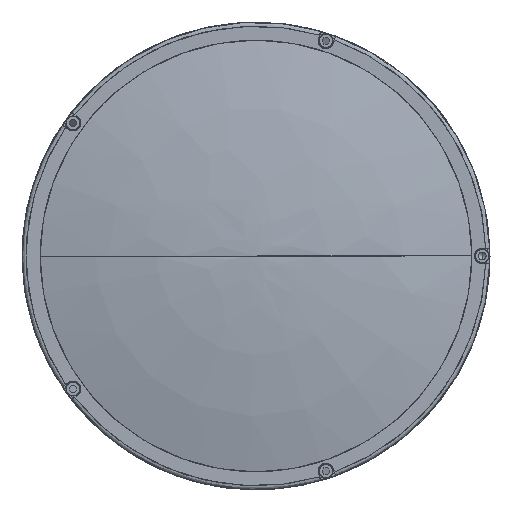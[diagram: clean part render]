
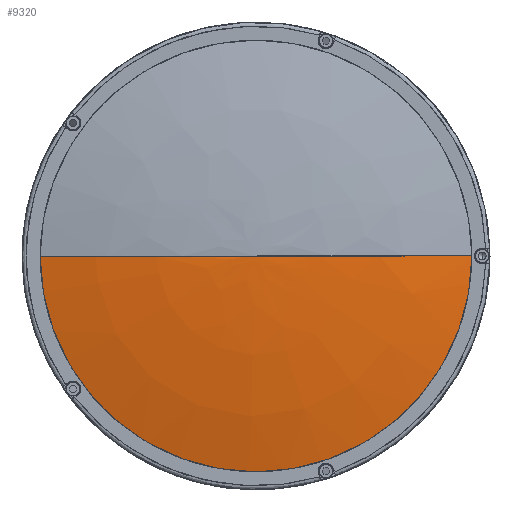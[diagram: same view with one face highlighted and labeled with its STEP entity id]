
A CAD part, left-side view. The second image highlights one B-rep face of the part: STEP entity #9320.
In plain terms, the highlighted face is a revolution surface.
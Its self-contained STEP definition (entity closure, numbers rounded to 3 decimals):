
#9320 = ADVANCED_FACE('',(#9321),#9339,.T.);
#9321 = FACE_BOUND('',#9322,.T.);
#9322 = EDGE_LOOP('',(#9323,#9353,#9372,#9391));
#9323 = ORIENTED_EDGE('',*,*,#9324,.F.);
#9324 = EDGE_CURVE('',#9325,#9327,#9329,.T.);
#9325 = VERTEX_POINT('',#9326);
#9326 = CARTESIAN_POINT('',(-362.63,0.,
    0.));
#9327 = VERTEX_POINT('',#9328);
#9328 = CARTESIAN_POINT('',(-353.104,85.,
    0.));
#9329 = SURFACE_CURVE('',#9330,(#9338),.PCURVE_S1.);
#9330 = ( BOUNDED_CURVE() B_SPLINE_CURVE(6,(#9331,#9332,#9333,#9334,
#9335,#9336,#9337),.UNSPECIFIED.,.F.,.F.) B_SPLINE_CURVE_WITH_KNOTS((7,7
),(0.,1.),.PIECEWISE_BEZIER_KNOTS.) CURVE() 
GEOMETRIC_REPRESENTATION_ITEM() RATIONAL_B_SPLINE_CURVE((1.001,
    1.,1.,1.,1.,
1.,1.001)) REPRESENTATION_ITEM('') );
#9331 = CARTESIAN_POINT('',(-362.63,0.,
    0.));
#9332 = CARTESIAN_POINT('',(-362.63,14.291,
    0.));
#9333 = CARTESIAN_POINT('',(-361.992,28.575,
    0.));
#9334 = CARTESIAN_POINT('',(-360.717,42.819,
    0.));
#9335 = CARTESIAN_POINT('',(-358.807,56.993,
    0.));
#9336 = CARTESIAN_POINT('',(-356.268,71.064,
    0.));
#9337 = CARTESIAN_POINT('',(-353.104,85.,
    0.));
#9338 = PCURVE('',#9339,#9348);
#9339 = SURFACE_OF_REVOLUTION('',#9340,#9345);
#9340 = CIRCLE('',#9341,384.);
#9341 = AXIS2_PLACEMENT_3D('',#9342,#9343,#9344);
#9342 = CARTESIAN_POINT('',(21.37,0.,0.));
#9343 = DIRECTION('',(-0.,0.,1.));
#9344 = DIRECTION('',(1.,0.,0.));
#9345 = AXIS1_PLACEMENT('',#9346,#9347);
#9346 = CARTESIAN_POINT('',(21.37,0.,0.));
#9347 = DIRECTION('',(1.,0.,0.));
#9348 = DEFINITIONAL_REPRESENTATION('',(#9349),#9352);
#9349 = B_SPLINE_CURVE_WITH_KNOTS('',1,(#9350,#9351),.UNSPECIFIED.,.F.,
  .F.,(2,2),(0.,1.),.PIECEWISE_BEZIER_KNOTS.);
#9350 = CARTESIAN_POINT('',(6.283,3.142));
#9351 = CARTESIAN_POINT('',(6.283,2.918));
#9352 = ( GEOMETRIC_REPRESENTATION_CONTEXT(2) 
PARAMETRIC_REPRESENTATION_CONTEXT() REPRESENTATION_CONTEXT('',''
  ) );
#9353 = ORIENTED_EDGE('',*,*,#9354,.F.);
#9354 = EDGE_CURVE('',#9355,#9325,#9357,.T.);
#9355 = VERTEX_POINT('',#9356);
#9356 = CARTESIAN_POINT('',(-362.63,0.,
    0.));
#9357 = SURFACE_CURVE('',#9358,(#9366),.PCURVE_S1.);
#9358 = ( BOUNDED_CURVE() B_SPLINE_CURVE(6,(#9359,#9360,#9361,#9362,
#9363,#9364,#9365),.UNSPECIFIED.,.F.,.F.) B_SPLINE_CURVE_WITH_KNOTS((7,7
),(0.,1.),.PIECEWISE_BEZIER_KNOTS.) CURVE() 
GEOMETRIC_REPRESENTATION_ITEM() RATIONAL_B_SPLINE_CURVE((1.133,
    1.036,0.992,0.976,0.992,
1.036,1.133)) REPRESENTATION_ITEM('') );
#9359 = CARTESIAN_POINT('',(-362.63,0.,
    0.));
#9360 = CARTESIAN_POINT('',(-362.63,0.,
    0.));
#9361 = CARTESIAN_POINT('',(-362.63,0.,
    0.));
#9362 = CARTESIAN_POINT('',(-362.63,0.,
    0.));
#9363 = CARTESIAN_POINT('',(-362.63,0.,0.
    ));
#9364 = CARTESIAN_POINT('',(-362.63,0.,
    0.));
#9365 = CARTESIAN_POINT('',(-362.63,0.,
    0.));
#9366 = PCURVE('',#9339,#9367);
#9367 = DEFINITIONAL_REPRESENTATION('',(#9368),#9371);
#9368 = B_SPLINE_CURVE_WITH_KNOTS('',1,(#9369,#9370),.UNSPECIFIED.,.F.,
  .F.,(2,2),(0.,1.),.PIECEWISE_BEZIER_KNOTS.);
#9369 = CARTESIAN_POINT('',(3.142,3.142));
#9370 = CARTESIAN_POINT('',(6.283,3.142));
#9371 = ( GEOMETRIC_REPRESENTATION_CONTEXT(2) 
PARAMETRIC_REPRESENTATION_CONTEXT() REPRESENTATION_CONTEXT('',''
  ) );
#9372 = ORIENTED_EDGE('',*,*,#9373,.F.);
#9373 = EDGE_CURVE('',#9374,#9355,#9376,.T.);
#9374 = VERTEX_POINT('',#9375);
#9375 = CARTESIAN_POINT('',(-353.104,-85.,
    0.));
#9376 = SURFACE_CURVE('',#9377,(#9385),.PCURVE_S1.);
#9377 = ( BOUNDED_CURVE() B_SPLINE_CURVE(6,(#9378,#9379,#9380,#9381,
#9382,#9383,#9384),.UNSPECIFIED.,.F.,.F.) B_SPLINE_CURVE_WITH_KNOTS((7,7
),(0.,1.),.PIECEWISE_BEZIER_KNOTS.) CURVE() 
GEOMETRIC_REPRESENTATION_ITEM() RATIONAL_B_SPLINE_CURVE((1.001,
    1.,1.,1.,1.,
1.,1.001)) REPRESENTATION_ITEM('') );
#9378 = CARTESIAN_POINT('',(-353.104,-85.,
    0.));
#9379 = CARTESIAN_POINT('',(-356.268,-71.064,
    0.));
#9380 = CARTESIAN_POINT('',(-358.807,-56.993,
    0.));
#9381 = CARTESIAN_POINT('',(-360.717,-42.819,
    0.));
#9382 = CARTESIAN_POINT('',(-361.992,-28.575,
    0.));
#9383 = CARTESIAN_POINT('',(-362.63,-14.291,
    0.));
#9384 = CARTESIAN_POINT('',(-362.63,0.,
    0.));
#9385 = PCURVE('',#9339,#9386);
#9386 = DEFINITIONAL_REPRESENTATION('',(#9387),#9390);
#9387 = B_SPLINE_CURVE_WITH_KNOTS('',1,(#9388,#9389),.UNSPECIFIED.,.F.,
  .F.,(2,2),(0.,1.),.PIECEWISE_BEZIER_KNOTS.);
#9388 = CARTESIAN_POINT('',(3.142,2.918));
#9389 = CARTESIAN_POINT('',(3.142,3.142));
#9390 = ( GEOMETRIC_REPRESENTATION_CONTEXT(2) 
PARAMETRIC_REPRESENTATION_CONTEXT() REPRESENTATION_CONTEXT('',''
  ) );
#9391 = ORIENTED_EDGE('',*,*,#9392,.F.);
#9392 = EDGE_CURVE('',#9327,#9374,#9393,.T.);
#9393 = SURFACE_CURVE('',#9394,(#9406),.PCURVE_S1.);
#9394 = B_SPLINE_CURVE_WITH_KNOTS('',10,(#9395,#9396,#9397,#9398,#9399,
    #9400,#9401,#9402,#9403,#9404,#9405),.UNSPECIFIED.,.F.,.F.,(11,11),(
    0.,1.),.PIECEWISE_BEZIER_KNOTS.);
#9395 = CARTESIAN_POINT('',(-353.104,85.,
    0.));
#9396 = CARTESIAN_POINT('',(-353.104,85.,
    -26.704));
#9397 = CARTESIAN_POINT('',(-353.104,75.679,
    -53.407));
#9398 = CARTESIAN_POINT('',(-353.104,57.036,
    -76.45));
#9399 = CARTESIAN_POINT('',(-353.104,30.716,
    -92.172));
#9400 = CARTESIAN_POINT('',(-353.104,0.,
    -97.774));
#9401 = CARTESIAN_POINT('',(-353.104,-30.716,
    -92.172));
#9402 = CARTESIAN_POINT('',(-353.104,-57.036,
    -76.45));
#9403 = CARTESIAN_POINT('',(-353.104,-75.679,
    -53.407));
#9404 = CARTESIAN_POINT('',(-353.104,-85.,
    -26.704));
#9405 = CARTESIAN_POINT('',(-353.104,-85.,
    0.));
#9406 = PCURVE('',#9339,#9407);
#9407 = DEFINITIONAL_REPRESENTATION('',(#9408),#9411);
#9408 = B_SPLINE_CURVE_WITH_KNOTS('',1,(#9409,#9410),.UNSPECIFIED.,.F.,
  .F.,(2,2),(0.,1.),.PIECEWISE_BEZIER_KNOTS.);
#9409 = CARTESIAN_POINT('',(6.283,2.918));
#9410 = CARTESIAN_POINT('',(3.142,2.918));
#9411 = ( GEOMETRIC_REPRESENTATION_CONTEXT(2) 
PARAMETRIC_REPRESENTATION_CONTEXT() REPRESENTATION_CONTEXT('',''
  ) );
